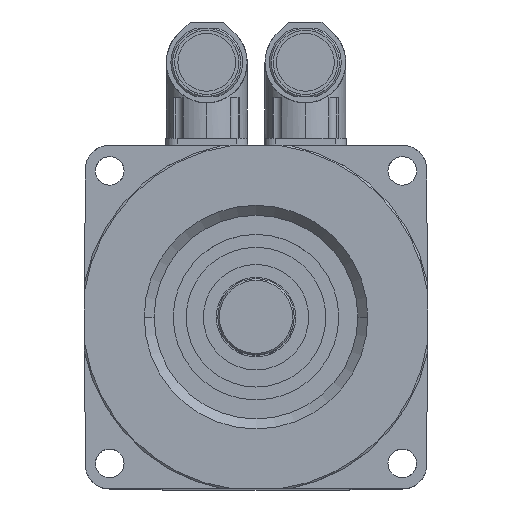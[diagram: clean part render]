
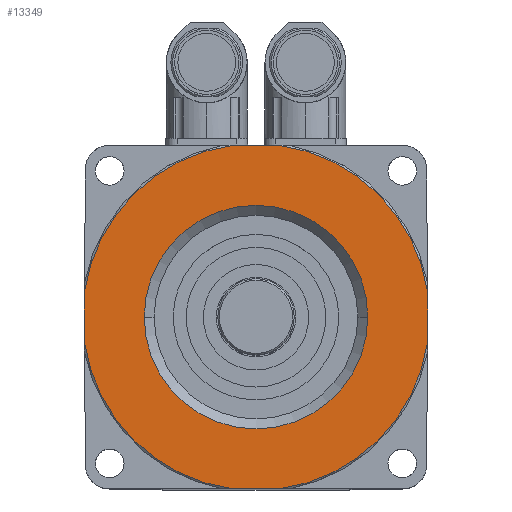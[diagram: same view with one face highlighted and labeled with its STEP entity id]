
A CAD part, top view. The second image highlights one B-rep face of the part: STEP entity #13349.
In plain terms, the highlighted planar face has unit normal (0, 0, 1).
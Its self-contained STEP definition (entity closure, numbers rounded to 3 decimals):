
#2449 = VERTEX_POINT ( 'NONE', #3094 ) ;
#2451 = EDGE_CURVE ( 'NONE', #2449, #2452, #3093, .T. ) ;
#2452 = VERTEX_POINT ( 'NONE', #3088 ) ;
#3088 = CARTESIAN_POINT ( 'NONE',  ( 35.13, 0., 1.94 ) ) ;
#3089 = DIRECTION ( 'NONE',  ( 1., 0., 0. ) ) ;
#3090 = DIRECTION ( 'NONE',  ( 0., 0., 1. ) ) ;
#3091 = CARTESIAN_POINT ( 'NONE',  ( 0., 0., 1.94 ) ) ;
#3092 = AXIS2_PLACEMENT_3D ( 'NONE', #3091, #3090, #3089 ) ;
#3093 = CIRCLE ( 'NONE', #3092, 35.13 ) ;
#3094 = CARTESIAN_POINT ( 'NONE',  ( -35.13, 0., 1.94 ) ) ;
#13285 = ORIENTED_EDGE ( 'NONE', *, *, #13286, .T. ) ;
#13286 = EDGE_CURVE ( 'NONE', #13287, #13288, #30868, .T. ) ;
#13287 = VERTEX_POINT ( 'NONE', #30864 ) ;
#13288 = VERTEX_POINT ( 'NONE', #30863 ) ;
#13289 = ORIENTED_EDGE ( 'NONE', *, *, #13290, .T. ) ;
#13290 = EDGE_CURVE ( 'NONE', #13288, #13291, #30861, .T. ) ;
#13291 = VERTEX_POINT ( 'NONE', #30862 ) ;
#13292 = ORIENTED_EDGE ( 'NONE', *, *, #13293, .T. ) ;
#13293 = EDGE_CURVE ( 'NONE', #13291, #13294, #30903, .T. ) ;
#13294 = VERTEX_POINT ( 'NONE', #30899 ) ;
#13327 = EDGE_CURVE ( 'NONE', #13334, #13411, #30969, .T. ) ;
#13328 = ORIENTED_EDGE ( 'NONE', *, *, #13329, .T. ) ;
#13329 = EDGE_CURVE ( 'NONE', #13332, #13331, #31025, .T. ) ;
#13330 = ORIENTED_EDGE ( 'NONE', *, *, #13333, .T. ) ;
#13331 = VERTEX_POINT ( 'NONE', #31021 ) ;
#13332 = VERTEX_POINT ( 'NONE', #31020 ) ;
#13333 = EDGE_CURVE ( 'NONE', #13331, #13334, #31019, .T. ) ;
#13334 = VERTEX_POINT ( 'NONE', #31015 ) ;
#13335 = EDGE_CURVE ( 'NONE', #13294, #13332, #31014, .T. ) ;
#13336 = ORIENTED_EDGE ( 'NONE', *, *, #13335, .T. ) ;
#13337 = ORIENTED_EDGE ( 'NONE', *, *, #13327, .T. ) ;
#13349 = ADVANCED_FACE ( 'NONE', ( #31028, #31027 ), #31064, .T. ) ;
#13350 = EDGE_LOOP ( 'NONE', ( #13285, #13289, #13292, #13336, #13328, #13330, #13337, #13493, #13406, #13412 ) ) ;
#13379 = EDGE_CURVE ( 'NONE', #13411, #13382, #31112, .T. ) ;
#13380 = EDGE_CURVE ( 'NONE', #13408, #13287, #31163, .T. ) ;
#13381 = ORIENTED_EDGE ( 'NONE', *, *, #13402, .F. ) ;
#13382 = VERTEX_POINT ( 'NONE', #31159 ) ;
#13402 = EDGE_CURVE ( 'NONE', #2452, #2449, #31183, .T. ) ;
#13403 = ORIENTED_EDGE ( 'NONE', *, *, #2451, .F. ) ;
#13406 = ORIENTED_EDGE ( 'NONE', *, *, #13407, .T. ) ;
#13407 = EDGE_CURVE ( 'NONE', #13382, #13408, #31221, .T. ) ;
#13408 = VERTEX_POINT ( 'NONE', #31211 ) ;
#13411 = VERTEX_POINT ( 'NONE', #31210 ) ;
#13412 = ORIENTED_EDGE ( 'NONE', *, *, #13380, .T. ) ;
#13413 = EDGE_LOOP ( 'NONE', ( #13381, #13403 ) ) ;
#13493 = ORIENTED_EDGE ( 'NONE', *, *, #13379, .T. ) ;
#30857 = DIRECTION ( 'NONE',  ( 1., 0., 0. ) ) ;
#30858 = DIRECTION ( 'NONE',  ( 0., 0., 1. ) ) ;
#30859 = CARTESIAN_POINT ( 'NONE',  ( 0., 0., 1.94 ) ) ;
#30860 = AXIS2_PLACEMENT_3D ( 'NONE', #30859, #30858, #30857 ) ;
#30861 = CIRCLE ( 'NONE', #30860, 54.5 ) ;
#30862 = CARTESIAN_POINT ( 'NONE',  ( 7.489, 53.983, 1.94 ) ) ;
#30863 = CARTESIAN_POINT ( 'NONE',  ( 53.913, 7.974, 1.94 ) ) ;
#30864 = CARTESIAN_POINT ( 'NONE',  ( 53.983, 0., 1.94 ) ) ;
#30865 = DIRECTION ( 'NONE',  ( -0.009, 1., 0. ) ) ;
#30866 = VECTOR ( 'NONE', #30865, 1000. ) ;
#30867 = CARTESIAN_POINT ( 'NONE',  ( 53.983, 0., 1.94 ) ) ;
#30868 = LINE ( 'NONE', #30867, #30866 ) ;
#30899 = CARTESIAN_POINT ( 'NONE',  ( -7.489, 53.983, 1.94 ) ) ;
#30900 = DIRECTION ( 'NONE',  ( -1., 0., 0. ) ) ;
#30901 = VECTOR ( 'NONE', #30900, 1000. ) ;
#30902 = CARTESIAN_POINT ( 'NONE',  ( 53.529, 53.983, 1.94 ) ) ;
#30903 = LINE ( 'NONE', #30902, #30901 ) ;
#30965 = DIRECTION ( 'NONE',  ( 1., 0., 0. ) ) ;
#30966 = DIRECTION ( 'NONE',  ( 0., 0., 1. ) ) ;
#30967 = CARTESIAN_POINT ( 'NONE',  ( 0., 0., 1.94 ) ) ;
#30968 = AXIS2_PLACEMENT_3D ( 'NONE', #30967, #30966, #30965 ) ;
#30969 = CIRCLE ( 'NONE', #30968, 54.5 ) ;
#31010 = DIRECTION ( 'NONE',  ( 1., 0., 0. ) ) ;
#31011 = DIRECTION ( 'NONE',  ( 0., 0., 1. ) ) ;
#31012 = CARTESIAN_POINT ( 'NONE',  ( 0., 0., 1.94 ) ) ;
#31013 = AXIS2_PLACEMENT_3D ( 'NONE', #31012, #31011, #31010 ) ;
#31014 = CIRCLE ( 'NONE', #31013, 54.5 ) ;
#31015 = CARTESIAN_POINT ( 'NONE',  ( -53.913, -7.974, 1.94 ) ) ;
#31016 = DIRECTION ( 'NONE',  ( 0.009, -1., 0. ) ) ;
#31017 = VECTOR ( 'NONE', #31016, 1000. ) ;
#31018 = CARTESIAN_POINT ( 'NONE',  ( -53.983, 0., 1.94 ) ) ;
#31019 = LINE ( 'NONE', #31018, #31017 ) ;
#31020 = CARTESIAN_POINT ( 'NONE',  ( -53.913, 7.974, 1.94 ) ) ;
#31021 = CARTESIAN_POINT ( 'NONE',  ( -53.983, 0., 1.94 ) ) ;
#31022 = DIRECTION ( 'NONE',  ( -0.009, -1., 0. ) ) ;
#31023 = VECTOR ( 'NONE', #31022, 1000. ) ;
#31024 = CARTESIAN_POINT ( 'NONE',  ( -53.512, 54., 1.94 ) ) ;
#31025 = LINE ( 'NONE', #31024, #31023 ) ;
#31027 = FACE_BOUND ( 'NONE', #13413, .T. ) ;
#31028 = FACE_OUTER_BOUND ( 'NONE', #13350, .T. ) ;
#31060 = DIRECTION ( 'NONE',  ( 1., 0., 0. ) ) ;
#31061 = DIRECTION ( 'NONE',  ( 0., 0., 1. ) ) ;
#31062 = CARTESIAN_POINT ( 'NONE',  ( 0., 26.182, 1.94 ) ) ;
#31063 = AXIS2_PLACEMENT_3D ( 'NONE', #31062, #31061, #31060 ) ;
#31064 = PLANE ( 'NONE',  #31063 ) ;
#31109 = DIRECTION ( 'NONE',  ( 1., 0., 0. ) ) ;
#31110 = VECTOR ( 'NONE', #31109, 1000. ) ;
#31111 = CARTESIAN_POINT ( 'NONE',  ( -53.529, -53.983, 1.94 ) ) ;
#31112 = LINE ( 'NONE', #31111, #31110 ) ;
#31159 = CARTESIAN_POINT ( 'NONE',  ( 7.489, -53.983, 1.94 ) ) ;
#31160 = DIRECTION ( 'NONE',  ( 0.009, 1., 0. ) ) ;
#31161 = VECTOR ( 'NONE', #31160, 1000. ) ;
#31162 = CARTESIAN_POINT ( 'NONE',  ( 53.512, -54., 1.94 ) ) ;
#31163 = LINE ( 'NONE', #31162, #31161 ) ;
#31179 = DIRECTION ( 'NONE',  ( 1., 0., 0. ) ) ;
#31180 = DIRECTION ( 'NONE',  ( 0., 0., 1. ) ) ;
#31181 = CARTESIAN_POINT ( 'NONE',  ( 0., 0., 1.94 ) ) ;
#31182 = AXIS2_PLACEMENT_3D ( 'NONE', #31181, #31180, #31179 ) ;
#31183 = CIRCLE ( 'NONE', #31182, 35.13 ) ;
#31210 = CARTESIAN_POINT ( 'NONE',  ( -7.489, -53.983, 1.94 ) ) ;
#31211 = CARTESIAN_POINT ( 'NONE',  ( 53.913, -7.974, 1.94 ) ) ;
#31212 = DIRECTION ( 'NONE',  ( 1., 0., 0. ) ) ;
#31213 = DIRECTION ( 'NONE',  ( 0., 0., 1. ) ) ;
#31214 = CARTESIAN_POINT ( 'NONE',  ( 0., 0., 1.94 ) ) ;
#31215 = AXIS2_PLACEMENT_3D ( 'NONE', #31214, #31213, #31212 ) ;
#31221 = CIRCLE ( 'NONE', #31215, 54.5 ) ;
